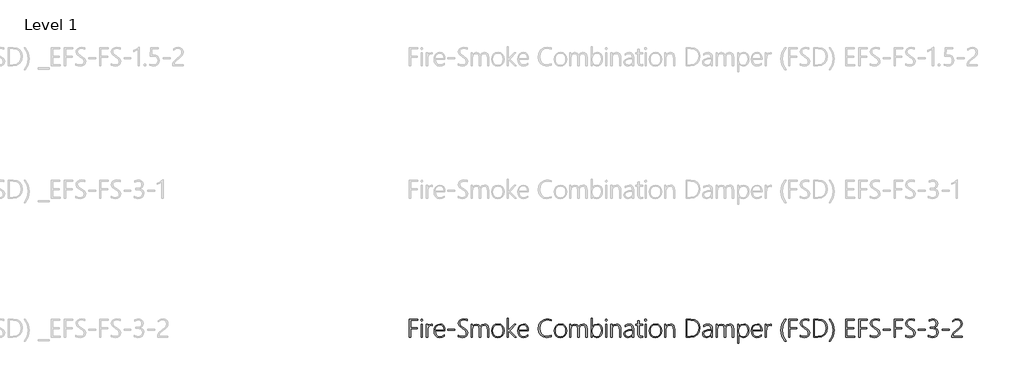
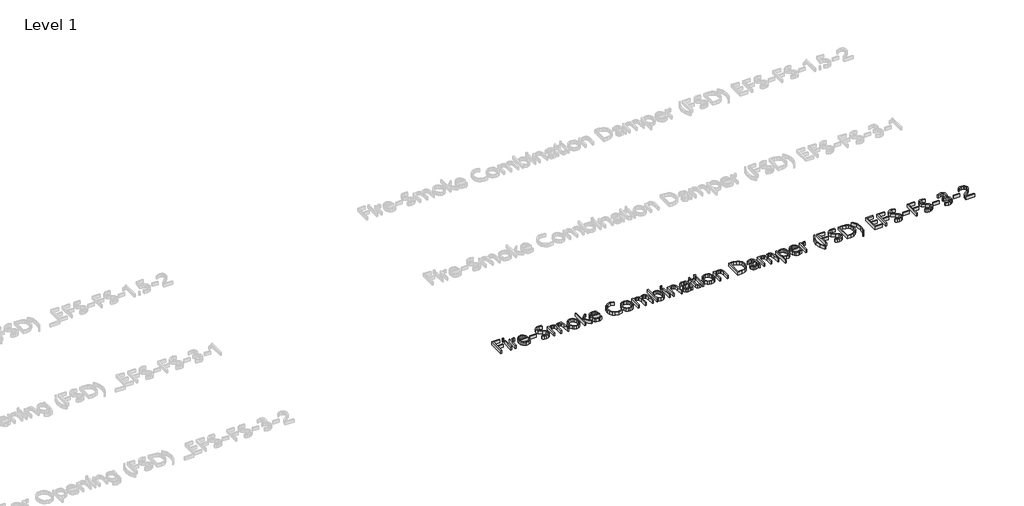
# One storey, part 2 of 13: 1 proxy.
"""IFC4 building model written with IfcOpenShell, lengths in millimetres."""

from ifc_helpers import new_model, si_unit, origin, origin_with_axes, place, context, project, spatial, polyline, outline, extrude, element, save

model = new_model("IFC4")

# Units and contexts
model_context = context("Model", 3, world=origin())
ifc_project = project(units=[si_unit("LENGTHUNIT", "METRE", prefix="MILLI")], contexts=[model_context])

# Site, building, storey
site = spatial("IfcSite", under=ifc_project)
building = spatial("IfcBuilding", under=site)
storey = spatial("IfcBuildingStorey", under=building, Name="Level 1", Elevation=0.0)

# Proxy
placement = place(None, origin())
element("IfcBuildingElementProxy", 1, Name="24\" Arial", ObjectType="24\" Arial", at=placement, inside=storey, context=model_context, shape_type="SweptSolid", body=[
    extrude(outline(polyline([(-11432.1552252, 4052.8454298), (-11432.1552252, 4012.0517943), (-11395.1999406, 4012.0517943), (-11395.1999406, 4005.7735616), (-11432.1552252, 4005.7735616), (-11432.1552252, 3959.1777679), (-11439.0583058, 3959.1777679), (-11439.0583058, 4059.1831719), (-11392.3137388, 4059.1831719), (-11392.3137388, 4052.8454298), (-11432.1552252, 4052.8454298)])), origin_with_axes(), (0.0, 0.0, 1.0), 20.0),
    extrude(outline(polyline([(-11370.6523481, 4048.5905138), (-11374.3419256, 4050.1228786), (-11375.9486771, 4054.0356161), (-11374.312171, 4057.7549483), (-11370.6523481, 4059.1831719), (-11366.8437519, 4057.784703), (-11365.2072458, 4054.0356161), (-11366.8139973, 4050.1972653), (-11370.6523481, 4048.5905138)])), origin_with_axes(), (0.0, 0.0, 1.0), 20.0),
    extrude(outline(polyline([(-11373.8063418, 3959.1777679), (-11373.8063418, 4030.588946), (-11367.3793358, 4030.588946), (-11367.3793358, 3959.1777679), (-11373.8063418, 3959.1777679)])), origin_with_axes(), (0.0, 0.0, 1.0), 20.0),
    extrude(outline(polyline([(-11311.5595982, 4023.894148), (-11319.0875266, 4026.1852566), (-11326.8348955, 4024.005728), (-11333.2358662, 4017.467142), (-11337.5316949, 4006.9191159), (-11338.9636378, 3992.7112669), (-11338.9636378, 3959.1777679), (-11345.2418706, 3959.1777679), (-11345.2418706, 4030.588946), (-11338.9636378, 4030.588946), (-11338.9636378, 4014.7594681), (-11330.9298803, 4027.4498296), (-11318.6709614, 4031.9874149), (-11311.5595982, 4030.7377193), (-11311.5595982, 4023.894148)])), origin_with_axes(), (0.0, 0.0, 1.0), 20.0),
    extrude(outline(polyline([(-11296.0871763, 3994.615565), (-11294.3874415, 3981.493761), (-11289.288237, 3971.5854601), (-11281.2284442, 3965.359298), (-11270.6469441, 3963.2839106), (-11258.7748357, 3965.5006326), (-11247.2002739, 3972.1507985), (-11247.2002739, 3965.3072273), (-11258.9384863, 3959.3934891), (-11271.956149, 3957.4222431), (-11284.4382279, 3959.8993183), (-11294.2721422, 3967.330544), (-11300.6545162, 3979.277039), (-11302.7819742, 3995.2999221), (-11300.5578136, 4009.6937377), (-11293.8853316, 4021.632794), (-11283.6571681, 4029.6665516), (-11270.7659627, 4032.3444708), (-11259.0091537, 4030.0050108), (-11250.3393903, 4022.986631), (-11244.99471, 4011.9290564), (-11243.2131498, 3997.4720121), (-11243.2131498, 3994.615565), (-11296.0871763, 3994.615565)]), holes=[polyline([(-11249.9079478, 4000.4772325), (-11251.6188406, 4011.4269465), (-11255.8588793, 4019.639232), (-11262.4123426, 4024.7719104), (-11271.0635093, 4026.4828032), (-11280.2316631, 4024.7979457), (-11287.6814855, 4019.7433733), (-11293.0112886, 4011.5571231), (-11295.8193844, 4000.4772325), (-11249.9079478, 4000.4772325)])]), origin_with_axes(), (0.0, 0.0, 1.0), 20.0),
    extrude(outline(polyline([(-11226.5802963, 3997.8885773), (-11226.5802963, 4004.1668101), (-11188.4348253, 4004.1668101), (-11188.4348253, 3997.8885773), (-11226.5802963, 3997.8885773)])), origin_with_axes(), (0.0, 0.0, 1.0), 20.0),
    extrude(outline(polyline([(-11169.867919, 3962.7483268), (-11169.867919, 3970.6035564), (-11159.0595396, 3965.4931939), (-11148.1172643, 3963.7897398), (-11130.3239791, 3968.6248716), (-11125.7715165, 3974.4307492), (-11124.254029, 3982.1781181), (-11128.3452944, 3994.4221597), (-11146.0344383, 4006.8744839), (-11165.2708244, 4021.7071807), (-11169.3025805, 4035.4687098), (-11167.2457898, 4045.2617115), (-11161.0754177, 4053.4554003), (-11151.4758213, 4059.0009246), (-11139.1313577, 4060.8494327), (-11121.2785632, 4057.8442123), (-11121.2785632, 4050.6138305), (-11140.0239975, 4054.5711999), (-11156.1658992, 4049.4087669), (-11160.6402558, 4043.5508187), (-11162.131708, 4036.3018402), (-11158.0553199, 4024.1024306), (-11140.4405627, 4011.7542477), (-11121.7843924, 3997.6356627), (-11117.1426658, 3983.4575684), (-11119.1399472, 3973.0062449), (-11125.1317914, 3964.6823795), (-11134.7685811, 3959.2372772), (-11147.7006991, 3957.4222431), (-11159.5876848, 3959.0289946), (-11169.867919, 3962.7483268)])), origin_with_axes(), (0.0, 0.0, 1.0), 20.0),
    extrude(outline(polyline([(-11008.1216006, 3959.1777679), (-11008.1216006, 4002.1434934), (-11012.3467619, 4021.0377009), (-11017.7993029, 4025.1215276), (-11025.7066032, 4026.4828032), (-11033.5581134, 4024.6677691), (-11040.271508, 4019.2226668), (-11044.8797606, 4011.040136), (-11046.4158448, 4001.0128164), (-11046.4158448, 3959.1777679), (-11052.8428509, 3959.1777679), (-11052.8428509, 4002.6195679), (-11057.3729975, 4020.5169944), (-11063.0356807, 4024.991351), (-11070.9634373, 4026.4828032), (-11078.9488435, 4024.6603304), (-11085.4688329, 4019.1929121), (-11089.8092935, 4010.8318534), (-11091.2561137, 4000.3284592), (-11091.2561137, 3959.1777679), (-11097.6831198, 3959.1777679), (-11097.6831198, 4030.588946), (-11091.2561137, 4030.588946), (-11091.2561137, 4018.7465923), (-11081.7941327, 4028.9450011), (-11069.1484032, 4032.3444708), (-11055.8034393, 4027.8366401), (-11048.2903883, 4016.0091638), (-11038.7093885, 4028.0449227), (-11025.1412647, 4032.3444708), (-11014.8963642, 4030.5312963), (-11007.5785781, 4025.091773), (-11003.1879064, 4016.0259008), (-11001.7243492, 4003.3336797), (-11001.7243492, 3959.1777679), (-11008.1216006, 3959.1777679)])), origin_with_axes(), (0.0, 0.0, 1.0), 20.0),
    extrude(outline(polyline([(-10950.9331488, 3957.4222431), (-10964.9252765, 3959.9960209), (-10975.6592692, 3967.7173546), (-10982.4879631, 3979.5522696), (-10984.7641944, 3994.4667917), (-10982.3838218, 4010.3223048), (-10975.242704, 4022.3022738), (-10964.2186034, 4029.8339215), (-10950.1892823, 4032.3444708), (-10936.5058592, 4029.8487989), (-10926.0433777, 4022.3617832), (-10919.4043698, 4010.4636395), (-10917.1913671, 3994.7345836), (-10919.4490018, 3979.6564109), (-10926.2219057, 3967.7471092), (-10936.9149857, 3960.0034596), (-10950.9331488, 3957.4222431)]), holes=[polyline([(-10950.4570742, 4026.4828032), (-10961.7935988, 4024.3553452), (-10970.5712227, 4017.9729712), (-10976.194853, 4007.8043169), (-10978.0693964, 3994.3180184), (-10976.239485, 3981.6797276), (-10970.7497507, 3971.7937427), (-10962.0837067, 3965.4113686), (-10950.7248662, 3963.2839106), (-10939.3176743, 3965.3778946), (-10930.8636323, 3971.6598467), (-10925.6305319, 3981.6536923), (-10923.8861651, 3994.8833569), (-10925.6193739, 4008.3733748), (-10930.8190003, 4018.3151497), (-10939.1949364, 4024.4408898), (-10950.4570742, 4026.4828032)])]), origin_with_axes(), (0.0, 0.0, 1.0), 20.0),
    extrude(outline(polyline([(-10858.7532197, 3959.1777679), (-10892.9413212, 3994.4667917), (-10893.2091131, 3959.1777679), (-10899.6361192, 3959.1777679), (-10899.6361192, 4064.8960661), (-10893.2091131, 4064.8960661), (-10893.2091131, 3996.7579003), (-10860.5087445, 4030.588946), (-10852.207195, 4030.588946), (-10886.09775, 3996.0140339), (-10849.4697665, 3959.1777679), (-10858.7532197, 3959.1777679)])), origin_with_axes(), (0.0, 0.0, 1.0), 20.0),
    extrude(outline(polyline([(-10835.2470402, 3994.615565), (-10833.5473054, 3981.493761), (-10828.448101, 3971.5854601), (-10820.3883081, 3965.359298), (-10809.806808, 3963.2839106), (-10797.9346997, 3965.5006326), (-10786.3601379, 3972.1507985), (-10786.3601379, 3965.3072273), (-10798.0983503, 3959.3934891), (-10811.116013, 3957.4222431), (-10823.5980918, 3959.8993183), (-10833.4320061, 3967.330544), (-10839.8143802, 3979.277039), (-10841.9418382, 3995.2999221), (-10839.7176775, 4009.6937377), (-10833.0451956, 4021.632794), (-10822.817032, 4029.6665516), (-10809.9258267, 4032.3444708), (-10798.1690176, 4030.0050108), (-10789.4992543, 4022.986631), (-10784.1545739, 4011.9290564), (-10782.3730138, 3997.4720121), (-10782.3730138, 3994.615565), (-10835.2470402, 3994.615565)]), holes=[polyline([(-10789.0678117, 4000.4772325), (-10790.7787045, 4011.4269465), (-10795.0187432, 4019.639232), (-10801.5722066, 4024.7719104), (-10810.2233732, 4026.4828032), (-10819.3915271, 4024.7979457), (-10826.8413495, 4019.7433733), (-10832.1711525, 4011.5571231), (-10834.9792483, 4000.4772325), (-10789.0678117, 4000.4772325)])]), origin_with_axes(), (0.0, 0.0, 1.0), 20.0),
    extrude(outline(polyline([(-10656.5703217, 3962.4507802), (-10681.8915352, 3957.4222431), (-10700.5030735, 3960.8663447), (-10715.3357703, 3971.1986495), (-10725.0432274, 3987.080198), (-10728.2790464, 4007.1720305), (-10724.7717161, 4029.0751778), (-10714.2497253, 4046.1655092), (-10698.3272642, 4057.1784518), (-10678.6185229, 4060.8494327), (-10656.5703217, 4057.1598552), (-10656.5703217, 4049.8402094), (-10678.7375415, 4054.5711999), (-10695.8092763, 4051.3800129), (-10709.3550842, 4041.8064519), (-10718.1922175, 4026.9365617), (-10721.1379285, 4007.8563876), (-10718.3223941, 3989.5721505), (-10709.8757907, 3975.6023388), (-10697.1073232, 3966.7428895), (-10681.3261968, 3963.7897398), (-10656.5703217, 3969.1455781), (-10656.5703217, 3962.4507802)])), origin_with_axes(), (0.0, 0.0, 1.0), 20.0),
    extrude(outline(polyline([(-10606.2551958, 3957.4222431), (-10620.2473235, 3959.9960209), (-10630.9813162, 3967.7173546), (-10637.8100101, 3979.5522696), (-10640.0862414, 3994.4667917), (-10637.7058688, 4010.3223048), (-10630.564751, 4022.3022738), (-10619.5406504, 4029.8339215), (-10605.5113293, 4032.3444708), (-10591.8279062, 4029.8487989), (-10581.3654247, 4022.3617832), (-10574.7264168, 4010.4636395), (-10572.5134141, 3994.7345836), (-10574.7710488, 3979.6564109), (-10581.5439527, 3967.7471092), (-10592.2370327, 3960.0034596), (-10606.2551958, 3957.4222431)]), holes=[polyline([(-10605.7791212, 4026.4828032), (-10617.1156458, 4024.3553452), (-10625.8932697, 4017.9729712), (-10631.5169, 4007.8043169), (-10633.3914434, 3994.3180184), (-10631.561532, 3981.6797276), (-10626.0717977, 3971.7937427), (-10617.4057537, 3965.4113686), (-10606.0469132, 3963.2839106), (-10594.6397213, 3965.3778946), (-10586.1856793, 3971.6598467), (-10580.9525789, 3981.6536923), (-10579.2082121, 3994.8833569), (-10580.9414209, 4008.3733748), (-10586.1410473, 4018.3151497), (-10594.5169834, 4024.4408898), (-10605.7791212, 4026.4828032)])]), origin_with_axes(), (0.0, 0.0, 1.0), 20.0),
    extrude(outline(polyline([(-10465.396647, 3959.1777679), (-10465.396647, 4002.1434934), (-10469.6218083, 4021.0377009), (-10475.0743493, 4025.1215276), (-10482.9816496, 4026.4828032), (-10490.8331598, 4024.6677691), (-10497.5465544, 4019.2226668), (-10502.154807, 4011.040136), (-10503.6908912, 4001.0128164), (-10503.6908912, 3959.1777679), (-10510.1178972, 3959.1777679), (-10510.1178972, 4002.6195679), (-10514.6480439, 4020.5169944), (-10520.3107271, 4024.991351), (-10528.2384837, 4026.4828032), (-10536.2238899, 4024.6603304), (-10542.7438792, 4019.1929121), (-10547.0843399, 4010.8318534), (-10548.5311601, 4000.3284592), (-10548.5311601, 3959.1777679), (-10554.9581662, 3959.1777679), (-10554.9581662, 4030.588946), (-10548.5311601, 4030.588946), (-10548.5311601, 4018.7465923), (-10539.069179, 4028.9450011), (-10526.4234496, 4032.3444708), (-10513.0784857, 4027.8366401), (-10505.5654346, 4016.0091638), (-10495.9844349, 4028.0449227), (-10482.4163111, 4032.3444708), (-10472.1714105, 4030.5312963), (-10464.8536245, 4025.091773), (-10460.4629528, 4016.0259008), (-10458.9993956, 4003.3336797), (-10458.9993956, 3959.1777679), (-10465.396647, 3959.1777679)])), origin_with_axes(), (0.0, 0.0, 1.0), 20.0),
    extrude(outline(polyline([(-10430.1968871, 3971.8830066), (-10430.464679, 3959.1777679), (-10436.891685, 3959.1777679), (-10436.891685, 4064.8960661), (-10430.464679, 4064.8960661), (-10430.464679, 4015.8603905), (-10419.2025411, 4028.0449227), (-10403.4772046, 4032.3444708), (-10391.3707783, 4029.9975721), (-10382.2472564, 4022.9568763), (-10376.5232042, 4011.891863), (-10374.6151868, 3997.4720121), (-10376.8281894, 3981.2520044), (-10383.4671974, 3968.4760983), (-10393.6470096, 3960.1857069), (-10406.482425, 3957.4222431), (-10420.4299207, 3961.037434), (-10430.1968871, 3971.8830066)]), holes=[polyline([(-10430.464679, 3998.4539158), (-10430.464679, 3989.4382546), (-10428.7723828, 3979.455567), (-10423.6954944, 3970.9903669), (-10415.8663001, 3965.2105247), (-10405.9170865, 3963.2839106), (-10395.9976276, 3965.6308092), (-10388.1386786, 3972.6715051), (-10383.0171582, 3983.5282357), (-10381.3099847, 3997.3232388), (-10382.8795429, 4009.3366818), (-10387.5882175, 4018.597819), (-10394.9078632, 4024.5115572), (-10404.310335, 4026.4828032), (-10415.3902256, 4024.3888192), (-10423.6359851, 4018.1068671), (-10428.7575055, 4009.0056612), (-10430.464679, 3998.4539158)])]), origin_with_axes(), (0.0, 0.0, 1.0), 20.0),
    extrude(outline(polyline([(-10356.9111655, 3959.1777679), (-10356.9111655, 4030.588946), (-10350.4841595, 4030.588946), (-10350.4841595, 3959.1777679), (-10356.9111655, 3959.1777679)])), origin_with_axes(), (0.0, 0.0, 1.0), 20.0),
    extrude(outline(polyline([(-10353.7571718, 4048.5905138), (-10357.4467494, 4050.1228786), (-10359.0535009, 4054.0356161), (-10357.4169947, 4057.7549483), (-10353.7571718, 4059.1831719), (-10349.9485757, 4057.784703), (-10348.3120695, 4054.0356161), (-10349.918821, 4050.1972653), (-10353.7571718, 4048.5905138)])), origin_with_axes(), (0.0, 0.0, 1.0), 20.0),
    extrude(outline(polyline([(-10279.7870932, 3959.1777679), (-10279.7870932, 4000.7450244), (-10284.4288198, 4020.0483585), (-10290.230978, 4024.874192), (-10298.3539995, 4026.4828032), (-10307.7527519, 4024.5896631), (-10315.299277, 4018.9102429), (-10320.2645854, 4010.4413235), (-10321.9196883, 4000.179686), (-10321.9196883, 3959.1777679), (-10328.3466943, 3959.1777679), (-10328.3466943, 4030.588946), (-10321.9196883, 4030.588946), (-10321.9196883, 4017.6159153), (-10311.6320154, 4028.6623319), (-10297.2233225, 4032.3444708), (-10287.0100363, 4030.4178567), (-10279.5193013, 4024.6380145), (-10274.9222067, 4015.2801747), (-10273.3898418, 4002.6195679), (-10273.3898418, 3959.1777679), (-10279.7870932, 3959.1777679)])), origin_with_axes(), (0.0, 0.0, 1.0), 20.0),
    extrude(outline(polyline([(-10209.4768374, 3959.1777679), (-10209.4768374, 3973.4600035), (-10219.6975623, 3961.7813004), (-10234.1732032, 3957.4222431), (-10243.2892864, 3958.854186), (-10250.2853502, 3963.1500146), (-10254.7373909, 3969.625372), (-10256.2214044, 3977.5959009), (-10254.6741622, 3986.0146093), (-10250.0324356, 3992.5848096), (-10231.4655293, 4000.179686), (-10209.4768374, 4003.4526983), (-10213.7987014, 4020.725277), (-10219.2010314, 4025.0434217), (-10226.7642934, 4026.4828032), (-10238.4132419, 4024.1098693), (-10249.7348891, 4016.9910675), (-10249.7348891, 4024.7272784), (-10238.9488257, 4030.1128714), (-10226.1394456, 4032.3444708), (-10216.3761986, 4030.6335779), (-10209.1049042, 4025.5008995), (-10204.5859156, 4017.1100861), (-10203.079586, 4005.6247883), (-10203.079586, 3959.1777679), (-10209.4768374, 3959.1777679)]), holes=[polyline([(-10229.144666, 3994.7345836), (-10244.9146345, 3989.5423959), (-10249.4373425, 3977.8636928), (-10245.2270584, 3967.4049307), (-10233.4590914, 3963.2839106), (-10224.0268649, 3965.1956473), (-10216.3204086, 3970.9308576), (-10211.1877302, 3979.6787269), (-10209.4768374, 3990.6284409), (-10209.4768374, 3997.5910307), (-10229.144666, 3994.7345836)])]), origin_with_axes(), (0.0, 0.0, 1.0), 20.0),
    extrude(outline(polyline([(-10153.4488173, 3960.1596716), (-10162.8810437, 3957.779299), (-10174.7531521, 3962.5251668), (-10178.7105215, 3976.7627705), (-10178.7105215, 4024.7272784), (-10191.5347789, 4024.7272784), (-10191.5347789, 4030.588946), (-10178.7105215, 4030.588946), (-10178.7105215, 4049.1260976), (-10175.4970185, 4050.2567746), (-10172.2835155, 4051.2981876), (-10172.2835155, 4030.588946), (-10153.4488173, 4030.588946), (-10153.4488173, 4024.7272784), (-10172.2835155, 4024.7272784), (-10172.2835155, 3977.5959009), (-10169.9477749, 3966.8842242), (-10162.0479133, 3963.5814572), (-10153.4488173, 3966.1403577), (-10153.4488173, 3960.1596716)])), origin_with_axes(), (0.0, 0.0, 1.0), 20.0),
    extrude(outline(polyline([(-10136.6671904, 4048.5905138), (-10140.3567679, 4050.1228786), (-10141.9635194, 4054.0356161), (-10140.3270133, 4057.7549483), (-10136.6671904, 4059.1831719), (-10132.8585942, 4057.784703), (-10131.2220881, 4054.0356161), (-10132.8288396, 4050.1972653), (-10136.6671904, 4048.5905138)])), origin_with_axes(), (0.0, 0.0, 1.0), 20.0),
    extrude(outline(polyline([(-10139.8211841, 3959.1777679), (-10139.8211841, 4030.588946), (-10133.3941781, 4030.588946), (-10133.3941781, 3959.1777679), (-10139.8211841, 3959.1777679)])), origin_with_axes(), (0.0, 0.0, 1.0), 20.0),
    extrude(outline(polyline([(-10082.573223, 3957.4222431), (-10096.5653507, 3959.9960209), (-10107.2993434, 3967.7173546), (-10114.1280373, 3979.5522696), (-10116.4042686, 3994.4667917), (-10114.023896, 4010.3223048), (-10106.8827782, 4022.3022738), (-10095.8586776, 4029.8339215), (-10081.8293565, 4032.3444708), (-10068.1459334, 4029.8487989), (-10057.6834519, 4022.3617832), (-10051.044444, 4010.4636395), (-10048.8314413, 3994.7345836), (-10051.089076, 3979.6564109), (-10057.8619799, 3967.7471092), (-10068.5550599, 3960.0034596), (-10082.573223, 3957.4222431)]), holes=[polyline([(-10082.0971485, 4026.4828032), (-10093.433673, 4024.3553452), (-10102.211297, 4017.9729712), (-10107.8349272, 4007.8043169), (-10109.7094707, 3994.3180184), (-10107.8795592, 3981.6797276), (-10102.3898249, 3971.7937427), (-10093.7237809, 3965.4113686), (-10082.3649404, 3963.2839106), (-10070.9577485, 3965.3778946), (-10062.5037065, 3971.6598467), (-10057.2706061, 3981.6536923), (-10055.5262393, 3994.8833569), (-10057.2594481, 4008.3733748), (-10062.4590745, 4018.3151497), (-10070.8350106, 4024.4408898), (-10082.0971485, 4026.4828032)])]), origin_with_axes(), (0.0, 0.0, 1.0), 20.0),
    extrude(outline(polyline([(-9982.7165923, 3959.1777679), (-9982.7165923, 4000.7450244), (-9987.3583188, 4020.0483585), (-9993.1604771, 4024.874192), (-10001.2834986, 4026.4828032), (-10010.682251, 4024.5896631), (-10018.228776, 4018.9102429), (-10023.1940845, 4010.4413235), (-10024.8491873, 4000.179686), (-10024.8491873, 3959.1777679), (-10031.2761934, 3959.1777679), (-10031.2761934, 4030.588946), (-10024.8491873, 4030.588946), (-10024.8491873, 4017.6159153), (-10014.5615145, 4028.6623319), (-10000.1528216, 4032.3444708), (-9989.9395354, 4030.4178567), (-9982.4488003, 4024.6380145), (-9977.8517058, 4015.2801747), (-9976.3193409, 4002.6195679), (-9976.3193409, 3959.1777679), (-9982.7165923, 3959.1777679)])), origin_with_axes(), (0.0, 0.0, 1.0), 20.0),
    extrude(outline(polyline([(-9913.7155414, 3959.1777679), (-9913.7155414, 4059.1831719), (-9888.6621198, 4059.1831719), (-9866.7626918, 4056.0812488), (-9850.8141954, 4046.7754797), (-9841.0844223, 4031.518779), (-9837.8411647, 4010.5640614), (-9841.3187403, 3989.8585391), (-9851.7514671, 3973.4451261), (-9868.3062147, 3962.7446074), (-9890.1498526, 3959.1777679), (-9913.7155414, 3959.1777679)]), holes=[polyline([(-9906.8124609, 4052.8454298), (-9906.8124609, 3965.4560006), (-9891.1020017, 3965.4560006), (-9871.4490504, 3968.3422024), (-9856.9436548, 3977.0008077), (-9847.9949416, 3991.0970767), (-9845.0120371, 4010.2962695), (-9847.8052556, 4028.9115271), (-9856.184911, 4042.2081397), (-9870.1510034, 4050.1861073), (-9889.7035328, 4052.8454298), (-9906.8124609, 4052.8454298)])]), origin_with_axes(), (0.0, 0.0, 1.0), 20.0),
    extrude(outline(polyline([(-9775.2968745, 3959.1777679), (-9775.2968745, 3973.4600035), (-9785.5175994, 3961.7813004), (-9799.9932403, 3957.4222431), (-9809.1093235, 3958.854186), (-9816.1053873, 3963.1500146), (-9820.557428, 3969.625372), (-9822.0414415, 3977.5959009), (-9820.4941993, 3986.0146093), (-9815.8524727, 3992.5848096), (-9797.2855664, 4000.179686), (-9775.2968745, 4003.4526983), (-9779.6187385, 4020.725277), (-9785.0210685, 4025.0434217), (-9792.5843305, 4026.4828032), (-9804.233279, 4024.1098693), (-9815.5549262, 4016.9910675), (-9815.5549262, 4024.7272784), (-9804.7688628, 4030.1128714), (-9791.9594827, 4032.3444708), (-9782.1962357, 4030.6335779), (-9774.9249413, 4025.5008995), (-9770.4059527, 4017.1100861), (-9768.8996231, 4005.6247883), (-9768.8996231, 3959.1777679), (-9775.2968745, 3959.1777679)]), holes=[polyline([(-9794.9647032, 3994.7345836), (-9810.7346716, 3989.5423959), (-9815.2573796, 3977.8636928), (-9811.0470956, 3967.4049307), (-9799.2791285, 3963.2839106), (-9789.8469021, 3965.1956473), (-9782.1404457, 3970.9308576), (-9777.0077673, 3979.6787269), (-9775.2968745, 3990.6284409), (-9775.2968745, 3997.5910307), (-9794.9647032, 3994.7345836)])]), origin_with_axes(), (0.0, 0.0, 1.0), 20.0),
    extrude(outline(polyline([(-9657.9742598, 3959.1777679), (-9657.9742598, 4002.1434934), (-9662.1994212, 4021.0377009), (-9667.6519622, 4025.1215276), (-9675.5592624, 4026.4828032), (-9683.4107727, 4024.6677691), (-9690.1241673, 4019.2226668), (-9694.7324199, 4011.040136), (-9696.2685041, 4001.0128164), (-9696.2685041, 3959.1777679), (-9702.6955101, 3959.1777679), (-9702.6955101, 4002.6195679), (-9707.2256567, 4020.5169944), (-9712.88834, 4024.991351), (-9720.8160965, 4026.4828032), (-9728.8015028, 4024.6603304), (-9735.3214921, 4019.1929121), (-9739.6619528, 4010.8318534), (-9741.108773, 4000.3284592), (-9741.108773, 3959.1777679), (-9747.535779, 3959.1777679), (-9747.535779, 4030.588946), (-9741.108773, 4030.588946), (-9741.108773, 4018.7465923), (-9731.6467919, 4028.9450011), (-9719.0010624, 4032.3444708), (-9705.6560985, 4027.8366401), (-9698.1430475, 4016.0091638), (-9688.5620478, 4028.0449227), (-9674.9939239, 4032.3444708), (-9664.7490234, 4030.5312963), (-9657.4312373, 4025.091773), (-9653.0405657, 4016.0259008), (-9651.5770084, 4003.3336797), (-9651.5770084, 3959.1777679), (-9657.9742598, 3959.1777679)])), origin_with_axes(), (0.0, 0.0, 1.0), 20.0),
    extrude(outline(polyline([(-9622.7744999, 3971.8830066), (-9623.0422919, 3926.3286259), (-9629.4692979, 3926.3286259), (-9629.4692979, 4030.588946), (-9623.0422919, 4030.588946), (-9623.0422919, 4015.8603905), (-9611.780154, 4028.0449227), (-9596.0548175, 4032.3444708), (-9583.9483912, 4029.9975721), (-9574.8248693, 4022.9568763), (-9569.1008171, 4011.891863), (-9567.1927996, 3997.4720121), (-9569.379767, 3981.2520044), (-9575.940669, 3968.4760983), (-9586.0944459, 3960.1857069), (-9599.0600379, 3957.4222431), (-9613.0075336, 3961.037434), (-9622.7744999, 3971.8830066)]), holes=[polyline([(-9623.0422919, 3998.4539158), (-9623.0422919, 3989.4382546), (-9621.3499957, 3979.455567), (-9616.2731073, 3970.9903669), (-9608.443913, 3965.2105247), (-9598.4946994, 3963.2839106), (-9588.5752404, 3965.6308092), (-9580.7162915, 3972.6715051), (-9575.5947711, 3983.5282357), (-9573.8875976, 3997.3232388), (-9575.4571558, 4009.3366818), (-9580.1658303, 4018.597819), (-9587.4854761, 4024.5115572), (-9596.8879479, 4026.4828032), (-9607.9678385, 4024.3888192), (-9616.213598, 4018.1068671), (-9621.3351184, 4009.0056612), (-9623.0422919, 3998.4539158)])]), origin_with_axes(), (0.0, 0.0, 1.0), 20.0),
    extrude(outline(polyline([(-9547.9415362, 3994.615565), (-9546.2418014, 3981.493761), (-9541.142597, 3971.5854601), (-9533.0828041, 3965.359298), (-9522.501304, 3963.2839106), (-9510.6291957, 3965.5006326), (-9499.0546339, 3972.1507985), (-9499.0546339, 3965.3072273), (-9510.7928463, 3959.3934891), (-9523.8105089, 3957.4222431), (-9536.2925878, 3959.8993183), (-9546.1265021, 3967.330544), (-9552.5088761, 3979.277039), (-9554.6363342, 3995.2999221), (-9552.4121735, 4009.6937377), (-9545.7396916, 4021.632794), (-9535.511528, 4029.6665516), (-9522.6203226, 4032.3444708), (-9510.8635136, 4030.0050108), (-9502.1937502, 4022.986631), (-9496.8490699, 4011.9290564), (-9495.0675098, 3997.4720121), (-9495.0675098, 3994.615565), (-9547.9415362, 3994.615565)]), holes=[polyline([(-9501.7623077, 4000.4772325), (-9503.4732005, 4011.4269465), (-9507.7132392, 4019.639232), (-9514.2667025, 4024.7719104), (-9522.9178692, 4026.4828032), (-9532.0860231, 4024.7979457), (-9539.5358455, 4019.7433733), (-9544.8656485, 4011.5571231), (-9547.6737443, 4000.4772325), (-9501.7623077, 4000.4772325)])]), origin_with_axes(), (0.0, 0.0, 1.0), 20.0),
    extrude(outline(polyline([(-9443.4431789, 4023.894148), (-9450.9711073, 4026.1852566), (-9458.7184762, 4024.005728), (-9465.1194469, 4017.467142), (-9469.4152756, 4006.9191159), (-9470.8472185, 3992.7112669), (-9470.8472185, 3959.1777679), (-9477.1254513, 3959.1777679), (-9477.1254513, 4030.588946), (-9470.8472185, 4030.588946), (-9470.8472185, 4014.7594681), (-9462.813461, 4027.4498296), (-9450.5545421, 4031.9874149), (-9443.4431789, 4030.7377193), (-9443.4431789, 4023.894148)])), origin_with_axes(), (0.0, 0.0, 1.0), 20.0),
    extrude(outline(polyline([(-9369.3540816, 3936.4452095), (-9385.1984368, 3963.9757064), (-9390.4798885, 3997.1744655), (-9385.1314888, 4031.5113403), (-9369.0862897, 4059.1831719), (-9362.2427185, 4059.1831719), (-9378.6226575, 4031.1617231), (-9384.0826371, 3997.3232388), (-9378.6970441, 3964.7716435), (-9362.5402651, 3936.4452095), (-9369.3540816, 3936.4452095)])), origin_with_axes(), (0.0, 0.0, 1.0), 20.0),
    extrude(outline(polyline([(-9341.2359302, 4052.8454298), (-9341.2359302, 4012.0517943), (-9304.2806456, 4012.0517943), (-9304.2806456, 4005.7735616), (-9341.2359302, 4005.7735616), (-9341.2359302, 3959.1777679), (-9348.1390108, 3959.1777679), (-9348.1390108, 4059.1831719), (-9301.3944438, 4059.1831719), (-9301.3944438, 4052.8454298), (-9341.2359302, 4052.8454298)])), origin_with_axes(), (0.0, 0.0, 1.0), 20.0),
    extrude(outline(polyline([(-9284.6128169, 3962.7483268), (-9284.6128169, 3970.6035564), (-9273.8044376, 3965.4931939), (-9262.8621623, 3963.7897398), (-9245.0688771, 3968.6248716), (-9240.5164145, 3974.4307492), (-9238.9989269, 3982.1781181), (-9243.0901923, 3994.4221597), (-9260.7793362, 4006.8744839), (-9280.0157224, 4021.7071807), (-9284.0474784, 4035.4687098), (-9281.9906877, 4045.2617115), (-9275.8203156, 4053.4554003), (-9266.2207192, 4059.0009246), (-9253.8762557, 4060.8494327), (-9236.0234612, 4057.8442123), (-9236.0234612, 4050.6138305), (-9254.7688954, 4054.5711999), (-9270.9107971, 4049.4087669), (-9275.3851538, 4043.5508187), (-9276.876606, 4036.3018402), (-9272.8002179, 4024.1024306), (-9255.1854606, 4011.7542477), (-9236.5292903, 3997.6356627), (-9231.8875638, 3983.4575684), (-9233.8848452, 3973.0062449), (-9239.8766893, 3964.6823795), (-9249.513479, 3959.2372772), (-9262.4455971, 3957.4222431), (-9274.3325828, 3959.0289946), (-9284.6128169, 3962.7483268)])), origin_with_axes(), (0.0, 0.0, 1.0), 20.0),
    extrude(outline(polyline([(-9211.0295488, 3959.1777679), (-9211.0295488, 4059.1831719), (-9185.9761272, 4059.1831719), (-9164.0766992, 4056.0812488), (-9148.1282028, 4046.7754797), (-9138.3984298, 4031.518779), (-9135.1551721, 4010.5640614), (-9138.6327477, 3989.8585391), (-9149.0654745, 3973.4451261), (-9165.6202221, 3962.7446074), (-9187.4638601, 3959.1777679), (-9211.0295488, 3959.1777679)]), holes=[polyline([(-9204.1264683, 4052.8454298), (-9204.1264683, 3965.4560006), (-9188.4160091, 3965.4560006), (-9168.7630578, 3968.3422024), (-9154.2576622, 3977.0008077), (-9145.308949, 3991.0970767), (-9142.3260446, 4010.2962695), (-9145.119263, 4028.9115271), (-9153.4989185, 4042.2081397), (-9167.4650109, 4050.1861073), (-9187.0175402, 4052.8454298), (-9204.1264683, 4052.8454298)])]), origin_with_axes(), (0.0, 0.0, 1.0), 20.0),
    extrude(outline(polyline([(-9118.0164893, 3936.4452095), (-9124.8600606, 3936.4452095), (-9108.6809655, 3964.7716435), (-9103.2879339, 3997.3232388), (-9108.7479135, 4031.1617231), (-9125.1278525, 4059.1831719), (-9118.2842813, 4059.1831719), (-9102.2390822, 4031.4369537), (-9096.8906825, 3997.1744655), (-9102.1721342, 3963.9013197), (-9118.0164893, 3936.4452095)])), origin_with_axes(), (0.0, 0.0, 1.0), 20.0),
    extrude(outline(polyline([(-9033.9298271, 3959.1777679), (-9033.9298271, 4059.1831719), (-8987.1852601, 4059.1831719), (-8987.1852601, 4052.8454298), (-9027.0267466, 4052.8454298), (-9027.0267466, 4012.7361514), (-8990.0714619, 4012.7361514), (-8990.0714619, 4006.4579187), (-9027.0267466, 4006.4579187), (-9027.0267466, 3965.4560006), (-8984.8941515, 3965.4560006), (-8984.8941515, 3959.1777679), (-9033.9298271, 3959.1777679)])), origin_with_axes(), (0.0, 0.0, 1.0), 20.0),
    extrude(outline(polyline([(-8954.6634194, 4052.8454298), (-8954.6634194, 4012.0517943), (-8917.7081348, 4012.0517943), (-8917.7081348, 4005.7735616), (-8954.6634194, 4005.7735616), (-8954.6634194, 3959.1777679), (-8961.5665, 3959.1777679), (-8961.5665, 4059.1831719), (-8914.821933, 4059.1831719), (-8914.821933, 4052.8454298), (-8954.6634194, 4052.8454298)])), origin_with_axes(), (0.0, 0.0, 1.0), 20.0),
    extrude(outline(polyline([(-8898.0403061, 3962.7483268), (-8898.0403061, 3970.6035564), (-8887.2319268, 3965.4931939), (-8876.2896515, 3963.7897398), (-8858.4963662, 3968.6248716), (-8853.9439036, 3974.4307492), (-8852.4264161, 3982.1781181), (-8856.5176815, 3994.4221597), (-8874.2068254, 4006.8744839), (-8893.4432115, 4021.7071807), (-8897.4749676, 4035.4687098), (-8895.4181769, 4045.2617115), (-8889.2478048, 4053.4554003), (-8879.6482084, 4059.0009246), (-8867.3037449, 4060.8494327), (-8849.4509503, 4057.8442123), (-8849.4509503, 4050.6138305), (-8868.1963846, 4054.5711999), (-8884.3382863, 4049.4087669), (-8888.8126429, 4043.5508187), (-8890.3040952, 4036.3018402), (-8886.2277071, 4024.1024306), (-8868.6129498, 4011.7542477), (-8849.9567795, 3997.6356627), (-8845.315053, 3983.4575684), (-8847.3123343, 3973.0062449), (-8853.3041785, 3964.6823795), (-8862.9409682, 3959.2372772), (-8875.8730862, 3957.4222431), (-8887.7600719, 3959.0289946), (-8898.0403061, 3962.7483268)])), origin_with_axes(), (0.0, 0.0, 1.0), 20.0),
    extrude(outline(polyline([(-8827.1647118, 3997.8885773), (-8827.1647118, 4004.1668101), (-8789.0192409, 4004.1668101), (-8789.0192409, 3997.8885773), (-8827.1647118, 3997.8885773)])), origin_with_axes(), (0.0, 0.0, 1.0), 20.0),
    extrude(outline(polyline([(-8760.425015, 4052.8454298), (-8760.425015, 4012.0517943), (-8723.4697303, 4012.0517943), (-8723.4697303, 4005.7735616), (-8760.425015, 4005.7735616), (-8760.425015, 3959.1777679), (-8767.3280955, 3959.1777679), (-8767.3280955, 4059.1831719), (-8720.5835285, 4059.1831719), (-8720.5835285, 4052.8454298), (-8760.425015, 4052.8454298)])), origin_with_axes(), (0.0, 0.0, 1.0), 20.0),
    extrude(outline(polyline([(-8703.8019017, 3962.7483268), (-8703.8019017, 3970.6035564), (-8692.9935223, 3965.4931939), (-8682.051247, 3963.7897398), (-8664.2579618, 3968.6248716), (-8659.7054992, 3974.4307492), (-8658.1880117, 3982.1781181), (-8662.2792771, 3994.4221597), (-8679.968421, 4006.8744839), (-8699.2048071, 4021.7071807), (-8703.2365632, 4035.4687098), (-8701.1797725, 4045.2617115), (-8695.0094004, 4053.4554003), (-8685.409804, 4059.0009246), (-8673.0653404, 4060.8494327), (-8655.2125459, 4057.8442123), (-8655.2125459, 4050.6138305), (-8673.9579801, 4054.5711999), (-8690.0998819, 4049.4087669), (-8694.5742385, 4043.5508187), (-8696.0656907, 4036.3018402), (-8691.9893026, 4024.1024306), (-8674.3745454, 4011.7542477), (-8655.7183751, 3997.6356627), (-8651.0766485, 3983.4575684), (-8653.0739299, 3973.0062449), (-8659.065774, 3964.6823795), (-8668.7025638, 3959.2372772), (-8681.6346818, 3957.4222431), (-8693.5216675, 3959.0289946), (-8703.8019017, 3962.7483268)])), origin_with_axes(), (0.0, 0.0, 1.0), 20.0),
    extrude(outline(polyline([(-8632.9263074, 3997.8885773), (-8632.9263074, 4004.1668101), (-8594.7808364, 4004.1668101), (-8594.7808364, 3997.8885773), (-8632.9263074, 3997.8885773)])), origin_with_axes(), (0.0, 0.0, 1.0), 20.0),
    extrude(outline(polyline([(-8577.8801909, 3962.7483268), (-8577.8801909, 3970.0679725), (-8556.3378189, 3963.2839106), (-8545.5889488, 3964.8274335), (-8537.4436113, 3969.458002), (-8532.3109329, 3976.5805232), (-8530.6000401, 3985.5999038), (-8532.5638475, 3995.3519928), (-8538.4552697, 4002.4112853), (-8547.9693214, 4006.695956), (-8560.8010175, 4008.1241795), (-8568.4777192, 4008.1241795), (-8568.4777192, 4013.9858471), (-8561.6341479, 4013.9858471), (-8549.8401455, 4015.406632), (-8541.2373302, 4019.6689866), (-8535.9819138, 4026.5274352), (-8534.2301083, 4035.7365017), (-8539.3181548, 4049.8699641), (-8545.5815102, 4053.7083149), (-8554.1954835, 4054.9877652), (-8573.9228215, 4048.4417405), (-8573.9228215, 4055.2853117), (-8553.2135798, 4060.8494327), (-8542.5762898, 4059.2464005), (-8534.4086363, 4054.437304), (-8529.2090099, 4046.9800429), (-8527.4758011, 4037.4325172), (-8532.3406876, 4020.836857), (-8546.9353471, 4011.6352291), (-8537.5105593, 4008.8754846), (-8530.1834749, 4003.5717169), (-8525.4748003, 3995.9619632), (-8523.9052422, 3986.5818075), (-8526.1740348, 3974.7357344), (-8532.9804127, 3965.4411233), (-8543.3945428, 3959.4269631), (-8556.4865922, 3957.4222431), (-8577.8801909, 3962.7483268)])), origin_with_axes(), (0.0, 0.0, 1.0), 20.0),
    extrude(outline(polyline([(-8501.5297397, 3997.8885773), (-8501.5297397, 4004.1668101), (-8463.3842687, 4004.1668101), (-8463.3842687, 3997.8885773), (-8501.5297397, 3997.8885773)])), origin_with_axes(), (0.0, 0.0, 1.0), 20.0),
    extrude(outline(polyline([(-8447.8225828, 3959.1777679), (-8447.8225828, 3963.8492491), (-8447.0489617, 3972.2549398), (-8444.7132211, 3979.1282657), (-8440.815361, 3985.0196879), (-8435.3702586, 3990.5242996), (-8428.3184048, 3996.1776845), (-8419.7044314, 4002.4707946), (-8411.2392314, 4008.9721873), (-8404.3659055, 4015.8752678), (-8399.7390562, 4023.9982893), (-8398.0430407, 4034.1595049), (-8399.411755, 4042.9371288), (-8403.5178977, 4049.5129082), (-8410.093677, 4053.6190509), (-8418.871301, 4054.9877652), (-8431.7848224, 4052.0569314), (-8443.9247227, 4043.9190325), (-8443.9247227, 4051.4469609), (-8431.5765398, 4058.3351641), (-8417.7703787, 4060.8494327), (-8406.880174, 4059.0343986), (-8398.5488699, 4053.8719655), (-8393.2227862, 4045.793576), (-8391.3482428, 4035.2009179), (-8393.3269275, 4022.9568763), (-8398.7273979, 4013.2568579), (-8406.7165234, 4005.2379777), (-8416.3719098, 3997.9480866), (-8427.7976983, 3989.4084999), (-8435.4000133, 3982.1334862), (-8439.6251747, 3974.7989631), (-8440.9195023, 3966.0808484), (-8391.1994695, 3965.0394354), (-8391.1994695, 3959.1777679), (-8447.8225828, 3959.1777679)])), origin_with_axes(), (0.0, 0.0, 1.0), 20.0),
])

save(model, "model.ifc")
